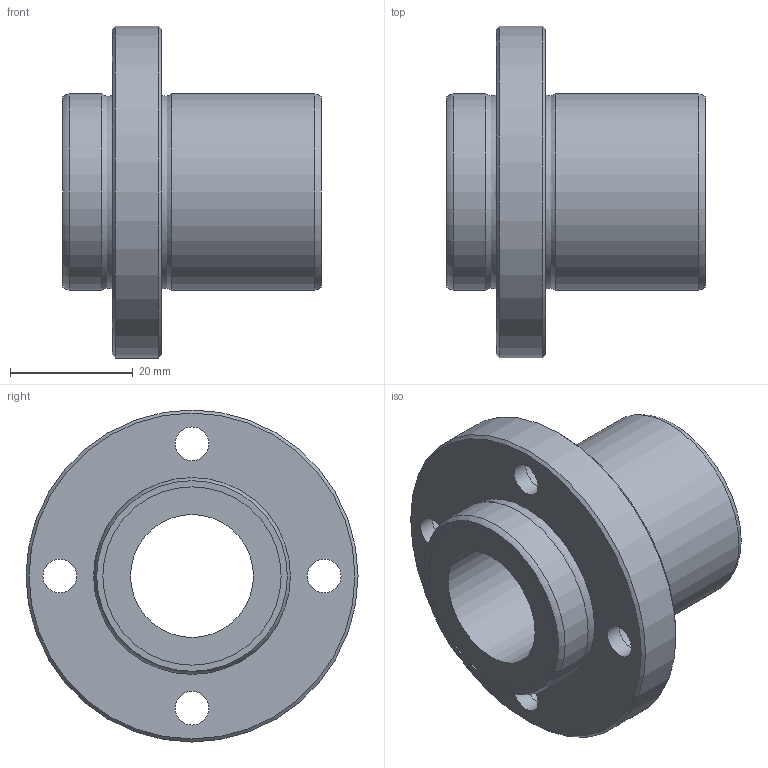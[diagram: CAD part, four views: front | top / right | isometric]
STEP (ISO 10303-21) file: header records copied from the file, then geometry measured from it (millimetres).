
FILE_DESCRIPTION((''),'2;1');
FILE_NAME('D:\製品 (図面)\カタログ用3D\リニアベアリング関連\STEP形式\LFB\LFB20.stp','2010-06-03T09:17:16',('Tsuchiya'),(''),'Autodesk Inventor 10','Autodesk Inventor 10','');
FILE_SCHEMA(('AUTOMOTIVE_DESIGN { 1 0 10303 214 1 1 1 1 }'));
Length unit declared in the file: millimetre
Products named in the file (1): LFB20
Bounding box: 42 x 54 x 54 mm (x, y, z)
Volume: 30607.8 mm3; surface area: 11854.7 mm2
Topology: 1 solids, 1 shells, 30 faces, 54 edges, 34 vertices
Faces by surface type: bspline 14, cylinder 6, plane 6, cone 2, torus 2
Full cylindrical faces by diameter (mm): 20 x1, 29 x2, 32 x2, 54 x1
Entity records: 907 total; most frequent: CARTESIAN_POINT 371, DIRECTION 102, ORIENTED_EDGE 68, EDGE_LOOP 68, AXIS2_PLACEMENT_3D 51, FACE_BOUND 38, VERTEX_POINT 34, CIRCLE 34
